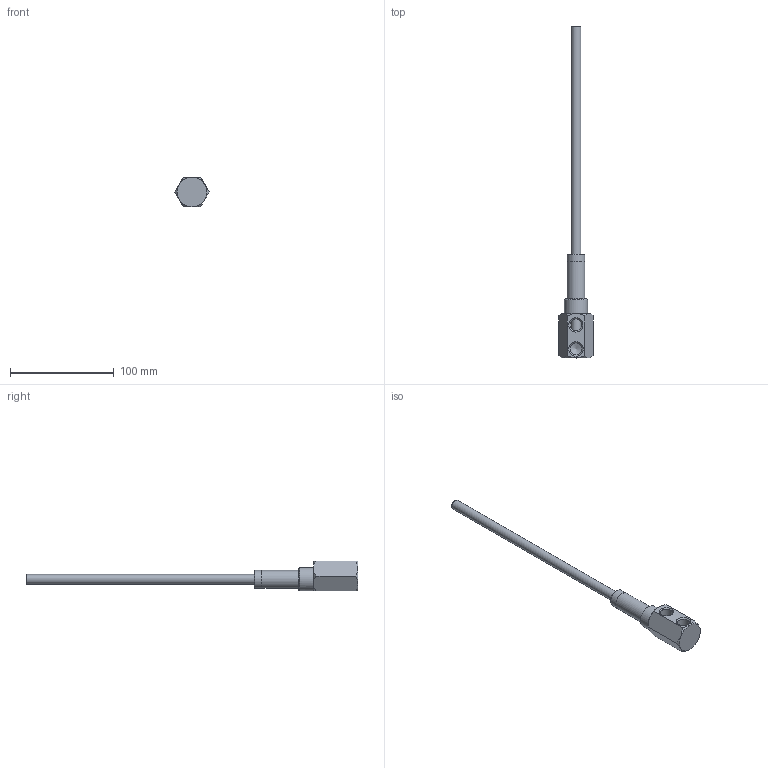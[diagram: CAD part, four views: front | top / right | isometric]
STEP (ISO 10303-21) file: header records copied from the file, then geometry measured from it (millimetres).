
FILE_DESCRIPTION(/* description */ (''),/* implementation_level */ '2;1');
FILE_NAME(/* name */ 'C:/Users/drich/Desktop/HF381N-4 v1.step',/* time_stamp */ '2020-01-15T19:35:12-06:00',/* author */ (''),/* organization */ (''),/* preprocessor_version */ 'ST-DEVELOPER v18',/* originating_system */ 'Autodesk Translation Framework v8.12.0.6',/* authorisation */ '');
FILE_SCHEMA (('AUTOMOTIVE_DESIGN { 1 0 10303 214 3 1 1 }'));
Length unit declared in the file: inch
Products named in the file (4): HF381N-4; HF381H-4; SSPN38-2; HF375T-12
Assembly tree (3 placements, depth 2):
  HF381N-4
    HF381H-4
    SSPN38-2
    HF375T-12
Bounding box: 33 x 320.29 x 28.57 mm (x, y, z)
Volume: 33972.6 mm3; surface area: 31320.7 mm2
Topology: 3 solids, 3 shells, 46 faces, 115 edges, 79 vertices
Faces by surface type: plane 18, cylinder 13, cone 12, torus 3
Full cylindrical faces by diameter (mm): 8.509 x1, 8.636 x1, 9.271 x1, 10.978 x1, 11.151 x1, 11.668 x2, 12.522 x1, 15.173 x1, 17.094 x2, 17.145 x1, 22.225 x1
Entity records: 1618 total; most frequent: CARTESIAN_POINT 356, DIRECTION 268, ORIENTED_EDGE 228, AXIS2_PLACEMENT_3D 119, EDGE_CURVE 114, VERTEX_POINT 79, CIRCLE 66, EDGE_LOOP 59
